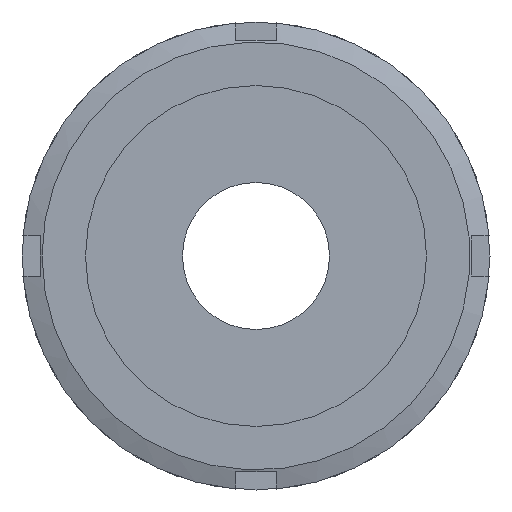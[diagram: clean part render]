
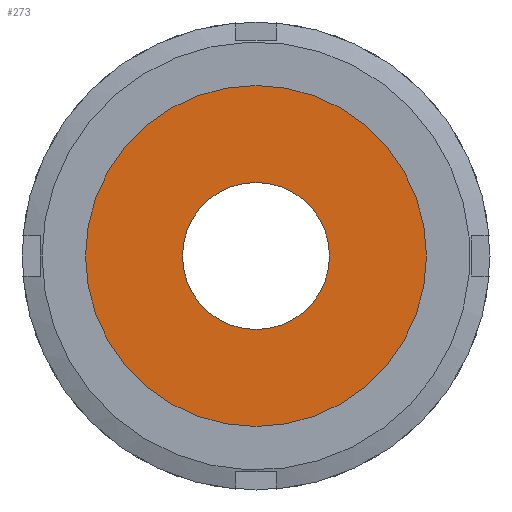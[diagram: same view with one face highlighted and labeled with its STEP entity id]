
A CAD part, left-side view. The second image highlights one B-rep face of the part: STEP entity #273.
In plain terms, the highlighted planar face has unit normal (-1, 0, 0) as drawn and (0, -1, 0) by its records, which use the part's own axes.
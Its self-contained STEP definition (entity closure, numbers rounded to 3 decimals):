
#273 = ADVANCED_FACE( '', ( #402, #403 ), #404, .T. );
#402 = FACE_OUTER_BOUND( '', #610, .T. );
#403 = FACE_BOUND( '', #611, .T. );
#404 = PLANE( '', #612 );
#610 = EDGE_LOOP( '', ( #961 ) );
#611 = EDGE_LOOP( '', ( #962 ) );
#612 = AXIS2_PLACEMENT_3D( '', #963, #964, #965 );
#961 = ORIENTED_EDGE( '', *, *, #1422, .T. );
#962 = ORIENTED_EDGE( '', *, *, #1423, .F. );
#963 = CARTESIAN_POINT( '', ( 11., 0., 0. ) );
#964 = DIRECTION( '', ( 0., -1., 0. ) );
#965 = DIRECTION( '', ( 0., 0., -1. ) );
#1422 = EDGE_CURVE( '', #1649, #1649, #1650, .T. );
#1423 = EDGE_CURVE( '', #1651, #1651, #1652, .T. );
#1649 = VERTEX_POINT( '', #2105 );
#1650 = CIRCLE( '', #2106, 25.5 );
#1651 = VERTEX_POINT( '', #2107 );
#1652 = CIRCLE( '', #2108, 11. );
#2105 = CARTESIAN_POINT( '', ( 0., 0., -25.5 ) );
#2106 = AXIS2_PLACEMENT_3D( '', #2580, #2581, #2582 );
#2107 = CARTESIAN_POINT( '', ( 0., 0., -11. ) );
#2108 = AXIS2_PLACEMENT_3D( '', #2583, #2584, #2585 );
#2580 = CARTESIAN_POINT( '', ( 0., 0., 0. ) );
#2581 = DIRECTION( '', ( 0., -1., 0. ) );
#2582 = DIRECTION( '', ( 0., 0., -1. ) );
#2583 = CARTESIAN_POINT( '', ( 0., 0., 0. ) );
#2584 = DIRECTION( '', ( 0., -1., 0. ) );
#2585 = DIRECTION( '', ( 0., 0., -1. ) );
